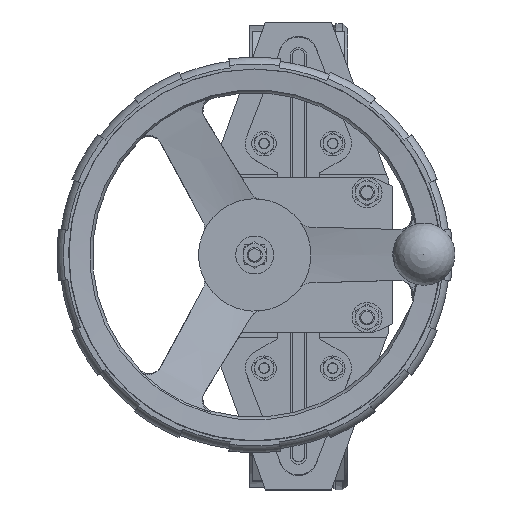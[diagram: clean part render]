
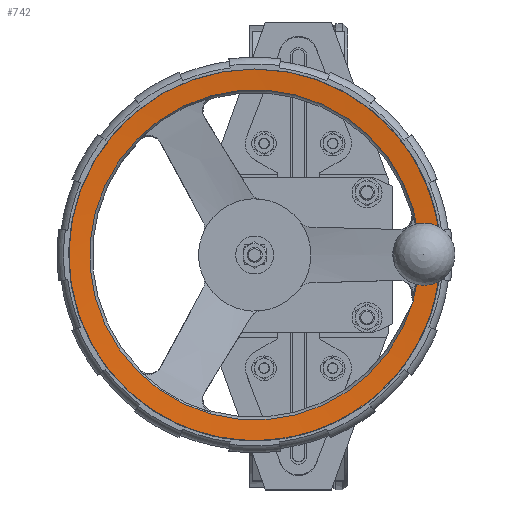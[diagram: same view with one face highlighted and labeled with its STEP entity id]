
A CAD part, top view. The second image highlights one B-rep face of the part: STEP entity #742.
In plain terms, the highlighted conical face has half-angle 85 degrees and reference radius 149 mm.
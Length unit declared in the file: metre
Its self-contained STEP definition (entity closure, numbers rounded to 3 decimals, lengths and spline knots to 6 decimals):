
#742=ADVANCED_FACE('',(#2384),#2385,.F.);
#2384=FACE_OUTER_BOUND('',#5164,.T.);
#2385=CONICAL_SURFACE('',#5165,0.149,1.484);
#5164=EDGE_LOOP('',(#10501,#10502,#10503,#10504,#10505,#10506));
#5165=AXIS2_PLACEMENT_3D('',#10507,#10508,#10509);
#10501=ORIENTED_EDGE('',*,*,#13286,.F.);
#10502=ORIENTED_EDGE('',*,*,#13289,.T.);
#10503=ORIENTED_EDGE('',*,*,#12352,.T.);
#10504=ORIENTED_EDGE('',*,*,#12312,.T.);
#10505=ORIENTED_EDGE('',*,*,#12351,.T.);
#10506=ORIENTED_EDGE('',*,*,#13290,.T.);
#10507=CARTESIAN_POINT('',(-0.035,0.0,0.816465));
#10508=DIRECTION('',(-0.0,0.,1.0));
#10509=DIRECTION('',(0.0,-1.0,0.));
#12312=EDGE_CURVE('',#15085,#15083,#15086,.T.);
#12351=EDGE_CURVE('',#15083,#15151,#15153,.T.);
#12352=EDGE_CURVE('',#15147,#15085,#15154,.T.);
#13286=EDGE_CURVE('',#16708,#16709,#16710,.T.);
#13289=EDGE_CURVE('',#16708,#15147,#16713,.T.);
#13290=EDGE_CURVE('',#15151,#16709,#16714,.T.);
#15083=VERTEX_POINT('',#19306);
#15085=VERTEX_POINT('',#19311);
#15086=CIRCLE('',#19312,0.132253);
#15147=VERTEX_POINT('',#19873);
#15151=VERTEX_POINT('',#19878);
#15153=B_SPLINE_CURVE_WITH_KNOTS('',3,(#19881,#19882,#19883,#19884),.UNSPECIFIED.,.F.,.F.,(4,4),(0.000002,0.003589),.UNSPECIFIED.);
#15154=B_SPLINE_CURVE_WITH_KNOTS('',3,(#19885,#19886,#19887,#19888,#19889,#19890),.UNSPECIFIED.,.F.,.F.,(4,2,4),(0.017724,0.019511,0.021297),.UNSPECIFIED.);
#16708=VERTEX_POINT('',#23800);
#16709=VERTEX_POINT('',#23801);
#16710=CIRCLE('',#23802,0.149);
#16713=B_SPLINE_CURVE_WITH_KNOTS('',3,(#23807,#23808,#23809,#23810,#23811,#23812,#23813),.UNSPECIFIED.,.F.,.F.,(4,3,4),(0.013863,0.02539,0.027156),.UNSPECIFIED.);
#16714=B_SPLINE_CURVE_WITH_KNOTS('',3,(#23814,#23815,#23816,#23817,#23818,#23819,#23820),.UNSPECIFIED.,.F.,.F.,(4,3,4),(0.023624,0.02539,0.036917),.UNSPECIFIED.);
#19306=CARTESIAN_POINT('',(0.096448,0.014573,0.815));
#19311=CARTESIAN_POINT('',(0.096448,-0.014573,0.815));
#19312=AXIS2_PLACEMENT_3D('',#25556,#25557,#25558);
#19873=CARTESIAN_POINT('',(0.1,-0.015,0.815313));
#19878=CARTESIAN_POINT('',(0.1,0.015,0.815313));
#19881=CARTESIAN_POINT('',(0.096448,0.014573,0.815));
#19882=CARTESIAN_POINT('',(0.097622,0.014859,0.815105));
#19883=CARTESIAN_POINT('',(0.098806,0.015,0.815209));
#19884=CARTESIAN_POINT('',(0.1,0.015,0.815313));
#19885=CARTESIAN_POINT('',(0.1,-0.015,0.815313));
#19886=CARTESIAN_POINT('',(0.099407,-0.015,0.815261));
#19887=CARTESIAN_POINT('',(0.098814,-0.014965,0.815209));
#19888=CARTESIAN_POINT('',(0.097627,-0.014823,0.815105));
#19889=CARTESIAN_POINT('',(0.097032,-0.014716,0.815052));
#19890=CARTESIAN_POINT('',(0.096448,-0.014573,0.815));
#23800=CARTESIAN_POINT('',(0.113243,-0.015,0.816465));
#23801=CARTESIAN_POINT('',(0.113243,0.015,0.816465));
#23802=AXIS2_PLACEMENT_3D('',#26927,#26928,#26929);
#23807=CARTESIAN_POINT('',(0.113243,-0.015,0.816465));
#23808=CARTESIAN_POINT('',(0.109415,-0.015,0.816132));
#23809=CARTESIAN_POINT('',(0.105588,-0.015,0.815799));
#23810=CARTESIAN_POINT('',(0.10176,-0.015,0.815466));
#23811=CARTESIAN_POINT('',(0.101173,-0.015,0.815415));
#23812=CARTESIAN_POINT('',(0.100587,-0.015,0.815364));
#23813=CARTESIAN_POINT('',(0.1,-0.015,0.815313));
#23814=CARTESIAN_POINT('',(0.1,0.015,0.815313));
#23815=CARTESIAN_POINT('',(0.100587,0.015,0.815364));
#23816=CARTESIAN_POINT('',(0.101173,0.015,0.815415));
#23817=CARTESIAN_POINT('',(0.10176,0.015,0.815466));
#23818=CARTESIAN_POINT('',(0.105588,0.015,0.815799));
#23819=CARTESIAN_POINT('',(0.109415,0.015,0.816132));
#23820=CARTESIAN_POINT('',(0.113243,0.015,0.816465));
#25556=CARTESIAN_POINT('',(-0.035,0.0,0.815));
#25557=DIRECTION('',(0.0,0.,-1.0));
#25558=DIRECTION('',(0.0,1.0,0.));
#26927=CARTESIAN_POINT('',(-0.035,0.0,0.816465));
#26928=DIRECTION('',(0.0,0.,-1.0));
#26929=DIRECTION('',(0.0,1.0,0.));
